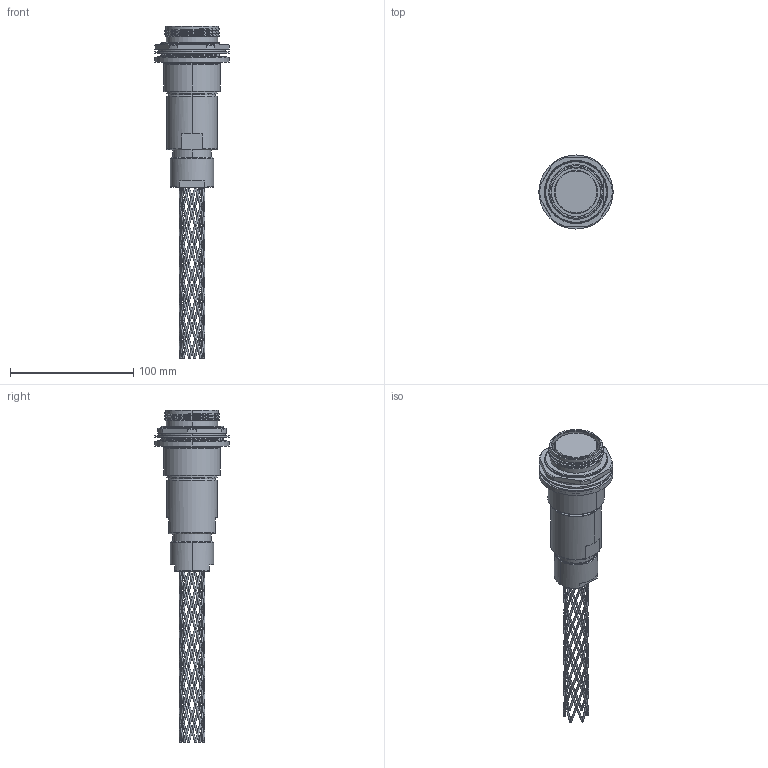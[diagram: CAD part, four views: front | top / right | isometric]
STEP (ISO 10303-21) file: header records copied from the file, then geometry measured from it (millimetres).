
FILE_DESCRIPTION (( 'STEP AP214' ), '1' );
FILE_NAME ('QLINK-RJTX-27XX-GXXX.STEP', '2025-09-30T22:38:44', ( '' ), ( '' ), 'SwSTEP 2.0', 'SolidWorks 2024', '' );
FILE_SCHEMA (( 'AUTOMOTIVE_DESIGN' ));
Length unit declared in the file: inch
Products named in the file (1): QLINK-RJTX-27XX-GXXX
Bounding box: 60.07 x 60.07 x 268.99 mm (x, y, z)
Volume: 183218 mm3; surface area: 43757.8 mm2
Topology: 2 solids, 2 shells, 446 faces, 1252 edges, 718 vertices
Faces by surface type: bspline 248, cylinder 82, plane 57, cone 37, torus 22
Entity records: 123920 total; most frequent: CARTESIAN_POINT 115319, ORIENTED_EDGE 2504, EDGE_CURVE 1252, DIRECTION 1112, VERTEX_POINT 718, AXIS2_PLACEMENT_3D 478, EDGE_LOOP 470, ADVANCED_FACE 446
